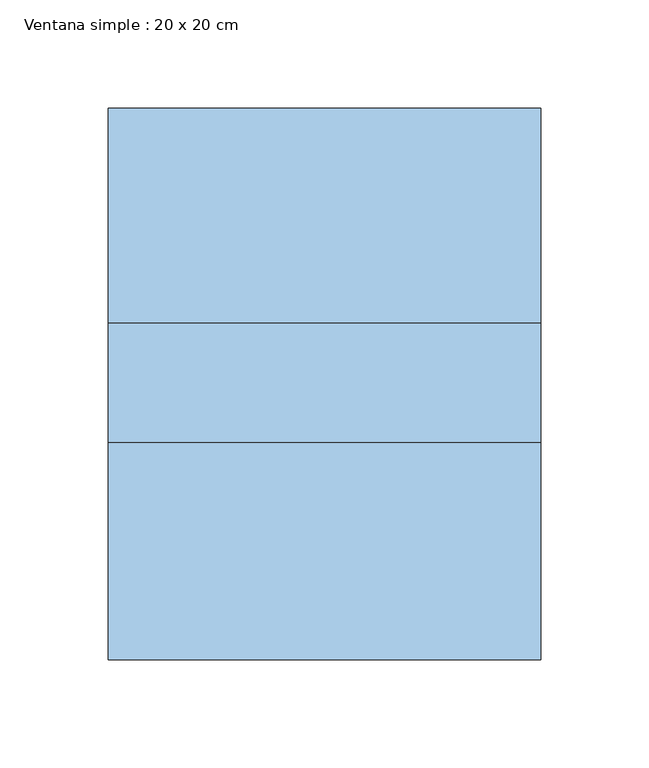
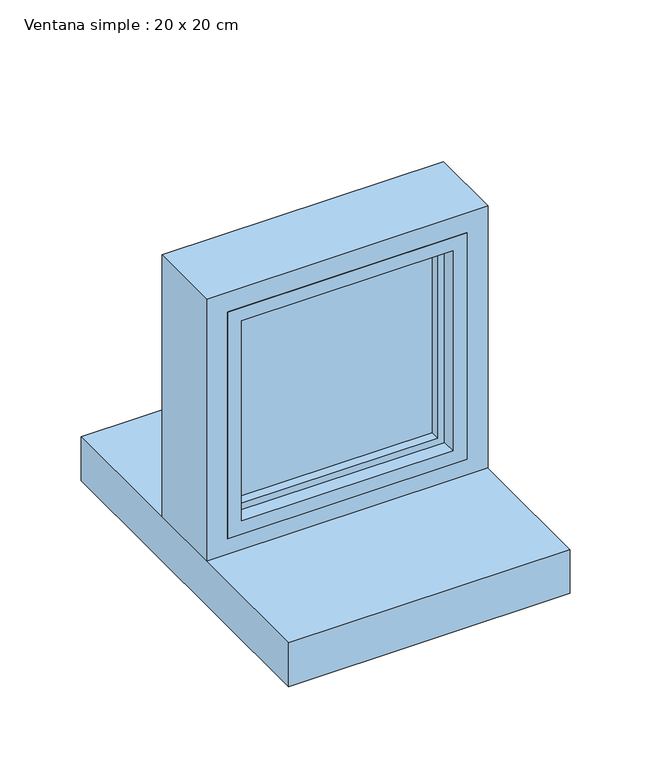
"""IFC4 building model written with IfcOpenShell, lengths in millimetres: window geometry, Ventana simple : 20 x 20 cm."""

from ifc_helpers import new_model, si_unit, frame, origin, place, context, project, spatial, polyline, ellipse_curve, outline, extrude, faceted_brep, source, transform, mapped, element, save
from ifc_brep_helpers import plane_surface, cylinder_surface, advanced_brep


def ventana_simple_20_x_20_cm_fcfd3fe3(model_context):
    return source(origin(), model_context, "Body", "SolidModel", [
        extrude(outline(polyline([(100.0, -120.6372612), (-100.0, -120.6372612), (-100.0, 134.3627388), (100.0, 134.3627388), (100.0, -120.6372612)])), frame((0.0, 0.0, 170.0), z_axis=(0.0, 0.0, 1.0), x_axis=(1.0, 0.0, 0.0)), (0.0, 0.0, 1.0), 33.0),
        extrude(outline(polyline([(70.0, -3.0), (-70.0, -3.0), (-70.0, 9.8627388), (70.0, 9.8627388), (70.0, -3.0)])), frame((0.0, 0.0, 230.0), z_axis=(0.0, 0.0, 1.0), x_axis=(1.0, 0.0, 0.0)), (0.0, 0.0, 1.0), 140.0),
        faceted_brep([(85.0, -20.0, 385.0), (85.0, 20.0, 385.0), (-85.0, 20.0, 385.0), (-85.0, -20.0, 385.0), (75.0, -10.0, 375.0), (75.0, -20.0, 375.0), (-75.0, -20.0, 375.0), (-75.0, -10.0, 375.0), (70.0, 20.0, 370.0), (70.0, -10.0, 370.0), (-70.0, -10.0, 370.0), (-70.0, 20.0, 370.0), (-85.0, 20.0, 215.0), (-85.0, -20.0, 215.0), (-75.0, -20.0, 225.0), (-75.0, -10.0, 225.0), (-70.0, -10.0, 230.0), (-70.0, 20.0, 230.0), (85.0, 20.0, 215.0), (85.0, -20.0, 215.0), (75.0, -20.0, 225.0), (75.0, -10.0, 225.0), (70.0, -10.0, 230.0), (70.0, 20.0, 230.0)], [[[0, 1, 2, 3]], [[4, 5, 6, 7]], [[8, 9, 10, 11]], [[3, 2, 12, 13]], [[7, 6, 14, 15]], [[11, 10, 16, 17]], [[13, 12, 18, 19]], [[15, 14, 20, 21]], [[17, 16, 22, 23]], [[19, 18, 1, 0]], [[3, 13, 19, 0], [5, 20, 14, 6]], [[21, 20, 5, 4]], [[7, 15, 21, 4], [9, 22, 16, 10]], [[23, 22, 9, 8]], [[1, 18, 12, 2], [11, 17, 23, 8]]]),
        advanced_brep(
        [(-100.0, 35.0, 400.0), (-100.0, 35.0, 200.0), (-100.0, -20.0, 200.0), (-100.0, -20.0, 400.0), (-85.0, 20.0, 385.0), (-85.0, -20.0, 385.0), (-85.0, -20.0, 215.0), (-85.0, 20.0, 215.0), (-75.0, 30.0, 375.0), (-75.0, 20.0, 375.0), (-75.0, 20.0, 225.0), (-75.0, 30.0, 225.0), (-80.0, 35.0, 380.0), (-80.0, 35.0, 220.0), (100.0, 35.0, 200.0), (100.0, -20.0, 200.0), (85.0, -20.0, 215.0), (85.0, 20.0, 215.0), (75.0, 20.0, 225.0), (75.0, 30.0, 225.0), (80.0, 35.0, 220.0), (100.0, 35.0, 400.0), (100.0, -20.0, 400.0), (85.0, -20.0, 385.0), (85.0, 20.0, 385.0), (75.0, 20.0, 375.0), (75.0, 30.0, 375.0), (80.0, 35.0, 380.0)],
        [
            (0, 1),
            (1, 2),
            (2, 3),
            (3, 0),
            (4, 5),
            (5, 6),
            (6, 7),
            (7, 4),
            (8, 9),
            (9, 10),
            (10, 11),
            (11, 8),
            (12, 8, ellipse_curve(frame((-80.0, 30.0, 380.0), z_axis=(-0.7071067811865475, 0.0, -0.7071067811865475), x_axis=(-0.7071067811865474, 0.0, 0.7071067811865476)), 7.0710678, 5.0)),
            (11, 13, ellipse_curve(frame((-80.0, 30.0, 220.0), z_axis=(-0.7071067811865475, 0.0, 0.7071067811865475), x_axis=(0.7071067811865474, 0.0, 0.7071067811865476)), 7.0710678, 5.0)),
            (13, 12),
            (1, 14),
            (14, 15),
            (15, 2),
            (6, 16),
            (16, 17),
            (17, 7),
            (10, 18),
            (18, 19),
            (19, 11),
            (19, 20, ellipse_curve(frame((80.0, 30.0, 220.0), z_axis=(-0.7071067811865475, 0.0, -0.7071067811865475), x_axis=(-0.7071067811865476, 0.0, 0.7071067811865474)), 7.0710678, 5.0)),
            (20, 13),
            (14, 21),
            (21, 22),
            (22, 15),
            (16, 23),
            (23, 24),
            (24, 17),
            (18, 25),
            (25, 26),
            (26, 19),
            (26, 27, ellipse_curve(frame((80.0, 30.0, 380.0), z_axis=(0.7071067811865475, 0.0, -0.7071067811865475), x_axis=(-0.7071067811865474, 0.0, -0.7071067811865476)), 7.0710678, 5.0)),
            (27, 20),
            (21, 0),
            (3, 22),
            (5, 23),
            (4, 24),
            (9, 25),
            (8, 26),
            (12, 27),
        ],
        [
            plane_surface(frame((-100.0, 0.0, 400.0), z_axis=(-1.0, 0.0, 0.0), x_axis=(0.0, 0.0, -1.0))),
            plane_surface(frame((-85.0, -20.0, 385.0), z_axis=(1.0, 0.0, 0.0), x_axis=(0.0, 0.0, -1.0))),
            plane_surface(frame((-75.0, 20.0, 375.0), z_axis=(1.0, 0.0, 0.0), x_axis=(0.0, 0.0, -1.0))),
            cylinder_surface(frame((-80.0, 30.0, 400.0), z_axis=(0.0, 0.0, 1.0), x_axis=(1.0, 0.0, 0.0)), 5.0),
            plane_surface(frame((-100.0, 0.0, 200.0), z_axis=(0.0, 0.0, -1.0), x_axis=(1.0, 0.0, 0.0))),
            plane_surface(frame((-85.0, -20.0, 215.0), z_axis=(0.0, 0.0, 1.0), x_axis=(1.0, 0.0, 0.0))),
            plane_surface(frame((-75.0, 20.0, 225.0), z_axis=(0.0, 0.0, 1.0), x_axis=(1.0, 0.0, 0.0))),
            cylinder_surface(frame((-100.0, 30.0, 220.0), z_axis=(-1.0, 0.0, 0.0), x_axis=(0.0, 0.0, 1.0)), 5.0),
            plane_surface(frame((100.0, 0.0, 200.0), z_axis=(1.0, 0.0, 0.0), x_axis=(0.0, 0.0, 1.0))),
            plane_surface(frame((85.0, -20.0, 215.0), z_axis=(-1.0, 0.0, 0.0), x_axis=(0.0, 0.0, 1.0))),
            plane_surface(frame((75.0, 20.0, 225.0), z_axis=(-1.0, 0.0, 0.0), x_axis=(0.0, 0.0, 1.0))),
            cylinder_surface(frame((80.0, 30.0, 200.0), z_axis=(0.0, 0.0, -1.0), x_axis=(-1.0, 0.0, 0.0)), 5.0),
            plane_surface(frame((100.0, 0.0, 400.0), z_axis=(0.0, 0.0, 1.0), x_axis=(-1.0, 0.0, 0.0))),
            plane_surface(frame((100.0, -20.0, 400.0), z_axis=(0.0, -1.0, 0.0), x_axis=(-1.0, 0.0, 0.0))),
            plane_surface(frame((85.0, -20.0, 385.0), z_axis=(0.0, 0.0, -1.0), x_axis=(-1.0, 0.0, 0.0))),
            plane_surface(frame((85.0, 20.0, 385.0), z_axis=(0.0, -1.0, 0.0), x_axis=(-1.0, 0.0, 0.0))),
            plane_surface(frame((75.0, 20.0, 375.0), z_axis=(0.0, 0.0, -1.0), x_axis=(-1.0, 0.0, 0.0))),
            cylinder_surface(frame((100.0, 30.0, 380.0), z_axis=(1.0, 0.0, 0.0), x_axis=(0.0, 0.0, -1.0)), 5.0),
            plane_surface(frame((80.0, 35.0, 380.0), z_axis=(0.0, 1.0, 0.0), x_axis=(-1.0, 0.0, 0.0))),
        ],
        [
            (0, [[1, 2, 3, 4]]),
            (1, [[5, 6, 7, 8]]),
            (2, [[9, 10, 11, 12]]),
            (3, [[13, -12, 14, 15]]),
            (4, [[-2, 16, 17, 18]]),
            (5, [[-7, 19, 20, 21]]),
            (6, [[-11, 22, 23, 24]]),
            (7, [[-14, -24, 25, 26]]),
            (8, [[-17, 27, 28, 29]]),
            (9, [[-20, 30, 31, 32]]),
            (10, [[-23, 33, 34, 35]]),
            (11, [[-25, -35, 36, 37]]),
            (12, [[-28, 38, -4, 39]]),
            (13, [[-18, -29, -39, -3], [40, -30, -19, -6]]),
            (14, [[-31, -40, -5, 41]]),
            (15, [[-21, -32, -41, -8], [42, -33, -22, -10]]),
            (16, [[-34, -42, -9, 43]]),
            (17, [[-36, -43, -13, 44]]),
            (18, [[-38, -27, -16, -1], [-26, -37, -44, -15]]),
        ],
    ),
    ])


if __name__ == "__main__":
    model = new_model("IFC4")
    model_context = context("Model", 3, world=origin())
    ifc_project = project(units=[si_unit("LENGTHUNIT", "METRE", prefix="MILLI")], contexts=[model_context])
    site = spatial("IfcSite", under=ifc_project)
    building = spatial("IfcBuilding", under=site)
    placement = place(None, origin())
    ventana_simple_20_x_20_cm_shape = ventana_simple_20_x_20_cm_fcfd3fe3(model_context)
    element("IfcWindow", 1, ObjectType="Ventana simple : 20 x 20 cm", at=placement, inside=building, context=model_context, shape_type="MappedRepresentation", body=[
        mapped(ventana_simple_20_x_20_cm_shape, transform((0.0, 0.0, 0.0), x_axis=(1.0, 0.0, 0.0), y_axis=(0.0, 1.0, 0.0), z_axis=(0.0, 0.0, 1.0))),
    ])
    save(model, "model.ifc")
